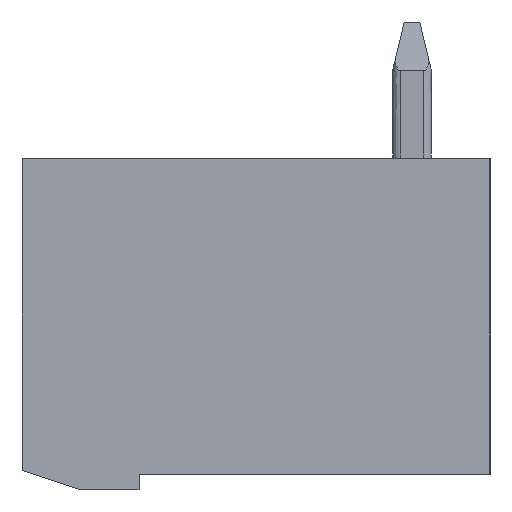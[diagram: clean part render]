
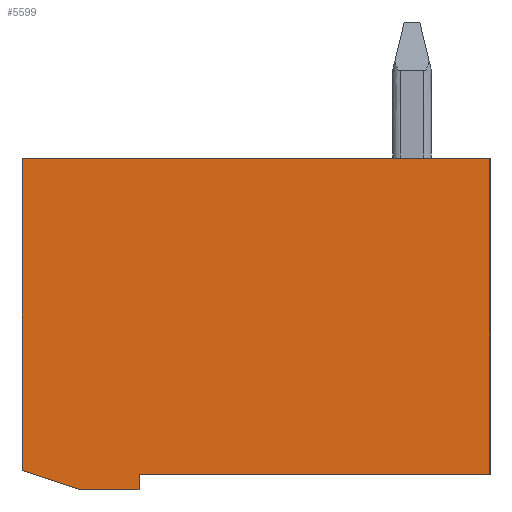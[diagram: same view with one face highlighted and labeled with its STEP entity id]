
A CAD part, left-side view. The second image highlights one B-rep face of the part: STEP entity #5599.
In plain terms, the highlighted planar face has unit normal (-1, 0, 0).
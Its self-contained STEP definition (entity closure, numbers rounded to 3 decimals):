
#2830 = VECTOR ( 'NONE', #10152, 1000. ) ;
#2852 = VECTOR ( 'NONE', #9927, 1000. ) ;
#2858 = VECTOR ( 'NONE', #9828, 1000. ) ;
#2863 = VECTOR ( 'NONE', #9793, 1000. ) ;
#3903 = CARTESIAN_POINT ( 'NONE',  ( 5.08, 0., 0. ) ) ;
#3905 = CARTESIAN_POINT ( 'NONE',  ( 5.08, 12., 0. ) ) ;
#3912 = CARTESIAN_POINT ( 'NONE',  ( 5.08, 0., -8.1 ) ) ;
#3934 = CARTESIAN_POINT ( 'NONE',  ( 5.08, 12., -8. ) ) ;
#3938 = CARTESIAN_POINT ( 'NONE',  ( 5.08, 9., -8.1 ) ) ;
#3942 = CARTESIAN_POINT ( 'NONE',  ( 5.08, 9., -8.5 ) ) ;
#3945 = CARTESIAN_POINT ( 'NONE',  ( 5.08, 10.5, -8.5 ) ) ;
#4527 = EDGE_CURVE ( 'NONE', #15391, #15382, #12495, .T. ) ;
#4528 = EDGE_CURVE ( 'NONE', #15384, #15413, #12512, .T. ) ;
#4529 = EDGE_CURVE ( 'NONE', #15382, #15384, #12489, .T. ) ;
#5191 = EDGE_CURVE ( 'NONE', #15424, #15421, #9788, .T. ) ;
#5196 = EDGE_CURVE ( 'NONE', #15421, #15417, #9755, .T. ) ;
#5210 = EDGE_CURVE ( 'NONE', #15424, #15413, #9769, .T. ) ;
#5236 = EDGE_CURVE ( 'NONE', #15391, #15417, #10147, .T. ) ;
#5599 = ADVANCED_FACE ( 'NONE', ( #18458 ), #18452, .F. ) ;
#9755 = LINE ( 'NONE', #9824, #2858 ) ;
#9769 = LINE ( 'NONE', #9922, #2852 ) ;
#9788 = LINE ( 'NONE', #9791, #2863 ) ;
#9791 = CARTESIAN_POINT ( 'NONE',  ( 5.08, 9.75, -8.5 ) ) ;
#9793 = DIRECTION ( 'NONE',  ( 0., -1., 0. ) ) ;
#9824 = CARTESIAN_POINT ( 'NONE',  ( 5.08, 9., -8.3 ) ) ;
#9828 = DIRECTION ( 'NONE',  ( 0., 0., 1. ) ) ;
#9922 = CARTESIAN_POINT ( 'NONE',  ( 5.08, 10.468, -8.511 ) ) ;
#9927 = DIRECTION ( 'NONE',  ( 0., 0.949, 0.316 ) ) ;
#10147 = LINE ( 'NONE', #10150, #2830 ) ;
#10150 = CARTESIAN_POINT ( 'NONE',  ( 5.08, 6., -8.1 ) ) ;
#10152 = DIRECTION ( 'NONE',  ( 0., 1., 0. ) ) ;
#11343 = EDGE_LOOP ( 'NONE', ( #12214, #12213, #12212, #12211, #12210, #12209, #12208 ) ) ;
#12208 = ORIENTED_EDGE ( 'NONE', *, *, #4529, .T. ) ;
#12209 = ORIENTED_EDGE ( 'NONE', *, *, #4527, .T. ) ;
#12210 = ORIENTED_EDGE ( 'NONE', *, *, #5236, .F. ) ;
#12211 = ORIENTED_EDGE ( 'NONE', *, *, #5196, .T. ) ;
#12212 = ORIENTED_EDGE ( 'NONE', *, *, #5191, .T. ) ;
#12213 = ORIENTED_EDGE ( 'NONE', *, *, #5210, .F. ) ;
#12214 = ORIENTED_EDGE ( 'NONE', *, *, #4528, .T. ) ;
#12487 = DIRECTION ( 'NONE',  ( 0., 1., 0. ) ) ;
#12488 = CARTESIAN_POINT ( 'NONE',  ( 5.08, 6., 0. ) ) ;
#12489 = LINE ( 'NONE', #12488, #17261 ) ;
#12490 = DIRECTION ( 'NONE',  ( 0., 0., -1. ) ) ;
#12491 = CARTESIAN_POINT ( 'NONE',  ( 5.08, 12., -4. ) ) ;
#12492 = DIRECTION ( 'NONE',  ( 0., 0., 1. ) ) ;
#12493 = CARTESIAN_POINT ( 'NONE',  ( 5.08, 0., -4.05 ) ) ;
#12495 = LINE ( 'NONE', #12493, #17267 ) ;
#12512 = LINE ( 'NONE', #12491, #17361 ) ;
#15382 = VERTEX_POINT ( 'NONE', #3903 ) ;
#15384 = VERTEX_POINT ( 'NONE', #3905 ) ;
#15391 = VERTEX_POINT ( 'NONE', #3912 ) ;
#15413 = VERTEX_POINT ( 'NONE', #3934 ) ;
#15417 = VERTEX_POINT ( 'NONE', #3938 ) ;
#15421 = VERTEX_POINT ( 'NONE', #3942 ) ;
#15424 = VERTEX_POINT ( 'NONE', #3945 ) ;
#17261 = VECTOR ( 'NONE', #12487, 1000. ) ;
#17267 = VECTOR ( 'NONE', #12492, 1000. ) ;
#17361 = VECTOR ( 'NONE', #12490, 1000. ) ;
#17603 = AXIS2_PLACEMENT_3D ( 'NONE', #18454, #18460, #18461 ) ;
#18452 = PLANE ( 'NONE',  #17603 ) ;
#18454 = CARTESIAN_POINT ( 'NONE',  ( 5.08, -0.24, 0.17 ) ) ;
#18458 = FACE_OUTER_BOUND ( 'NONE', #11343, .T. ) ;
#18460 = DIRECTION ( 'NONE',  ( 1., 0., 0. ) ) ;
#18461 = DIRECTION ( 'NONE',  ( 0., 0., -1. ) ) ;
